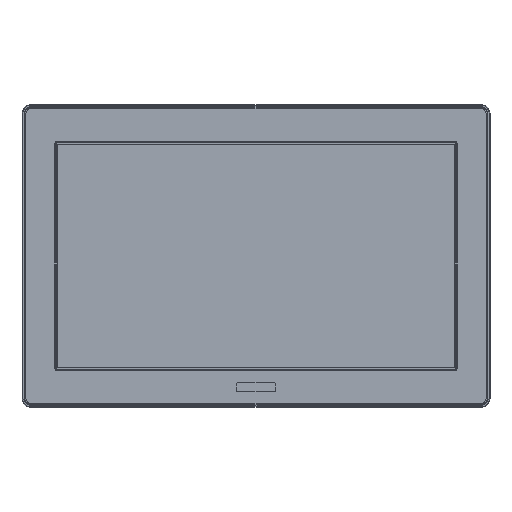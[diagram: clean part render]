
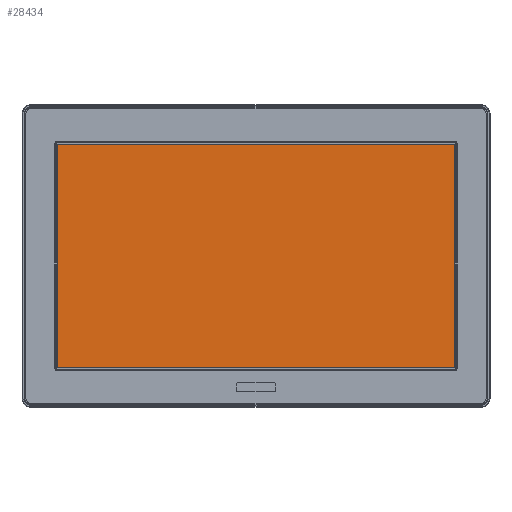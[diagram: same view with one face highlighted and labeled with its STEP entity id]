
A CAD part, top view. The second image highlights one B-rep face of the part: STEP entity #28434.
In plain terms, the highlighted planar face has unit normal (0, 0, 1).
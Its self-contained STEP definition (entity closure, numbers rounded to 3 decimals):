
#2108=FACE_OUTER_BOUND('',#3696,.T.);
#3696=EDGE_LOOP('',(#20941,#20942,#20943,#20944));
#5790=LINE('',#45011,#9017);
#5793=LINE('',#45017,#9020);
#5794=LINE('',#45018,#9021);
#5795=LINE('',#45019,#9022);
#9017=VECTOR('',#34414,345.94);
#9020=VECTOR('',#34419,345.94);
#9021=VECTOR('',#34420,195.23);
#9022=VECTOR('',#34421,195.23);
#12285=VERTEX_POINT('',#45009);
#12286=VERTEX_POINT('',#45010);
#12287=VERTEX_POINT('',#45015);
#12288=VERTEX_POINT('',#45016);
#15529=EDGE_CURVE('',#12285,#12286,#5790,.T.);
#15532=EDGE_CURVE('',#12287,#12288,#5793,.T.);
#15533=EDGE_CURVE('',#12286,#12287,#5794,.T.);
#15534=EDGE_CURVE('',#12288,#12285,#5795,.T.);
#20941=ORIENTED_EDGE('',*,*,#15532,.F.);
#20942=ORIENTED_EDGE('',*,*,#15533,.F.);
#20943=ORIENTED_EDGE('',*,*,#15529,.F.);
#20944=ORIENTED_EDGE('',*,*,#15534,.F.);
#27172=PLANE('',#30351);
#28434=ADVANCED_FACE('',(#2108),#27172,.T.);
#30351=AXIS2_PLACEMENT_3D('',#45014,#34417,#34418);
#34414=DIRECTION('',(-1.,0.,0.));
#34417=DIRECTION('center_axis',(0.,0.,1.));
#34418=DIRECTION('ref_axis',(1.,0.,0.));
#34419=DIRECTION('',(1.,0.,0.));
#34420=DIRECTION('',(0.,1.,0.));
#34421=DIRECTION('',(0.,-1.,0.));
#45009=CARTESIAN_POINT('',(172.97,-97.615,6.05));
#45010=CARTESIAN_POINT('',(-172.97,-97.615,6.05));
#45011=CARTESIAN_POINT('',(172.97,-97.615,6.05));
#45014=CARTESIAN_POINT('Origin',(0.,0.,6.05));
#45015=CARTESIAN_POINT('',(-172.97,97.615,6.05));
#45016=CARTESIAN_POINT('',(172.97,97.615,6.05));
#45017=CARTESIAN_POINT('',(-172.97,97.615,6.05));
#45018=CARTESIAN_POINT('',(-172.97,-97.615,6.05));
#45019=CARTESIAN_POINT('',(172.97,97.615,6.05));
